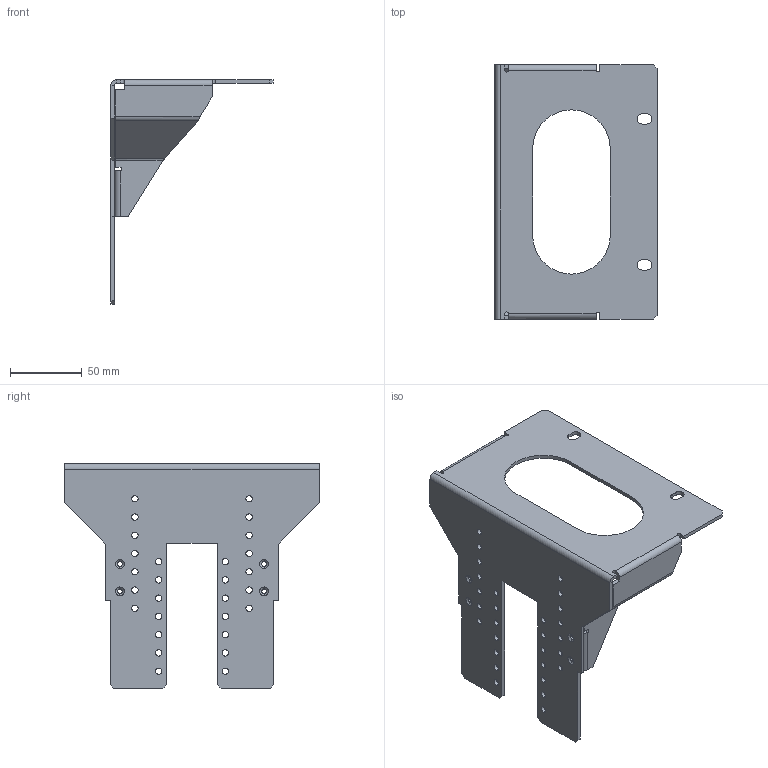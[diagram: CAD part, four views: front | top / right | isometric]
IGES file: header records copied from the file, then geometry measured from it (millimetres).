
Start section:  PTC IGES file: cu_rackmount_4-6-slot_chas.igs
Global section: file name: cu_rackmount_4-6-slot_chas.igs; native system: Pro/ENGINEER by Parametric Technology Corporation; preprocessor: 2010230; author: talbott; organization: Unknown; date: 20110715.120103; units: inch
Bounding box: 112.88 x 177.04 x 156.21 mm (x, y, z)
Surface area: 84583.7 mm2 (no closed solid volume)
Topology: 0 solids, 0 shells, 214 faces, 1112 edges, 1112 vertices
Faces by surface type: revolution 110, bspline 104
